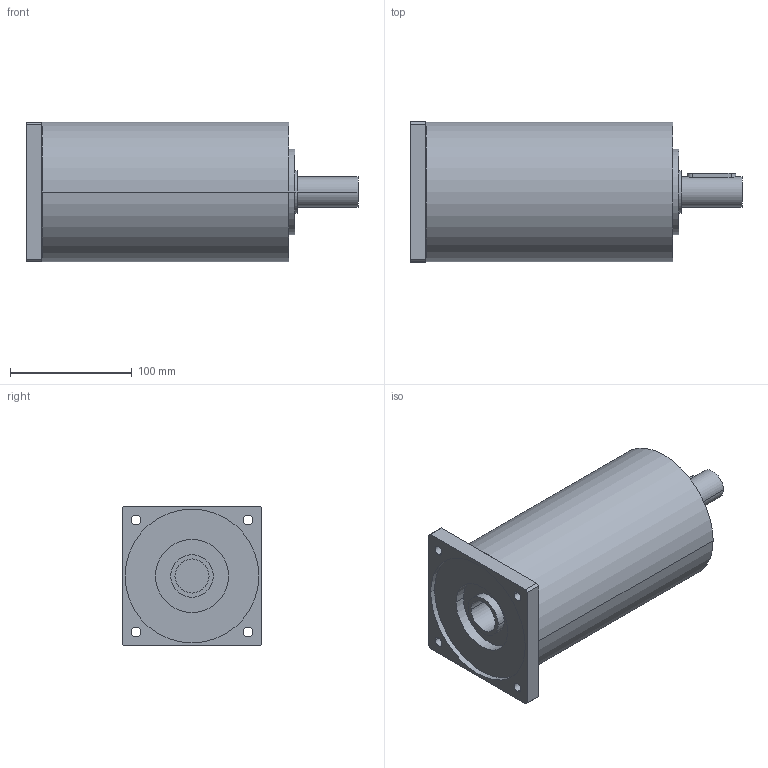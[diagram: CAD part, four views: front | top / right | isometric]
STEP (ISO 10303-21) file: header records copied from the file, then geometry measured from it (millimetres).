
FILE_DESCRIPTION(('CoCreate Modeling STEP Export'),'2;1');
FILE_NAME('GPR125_ig-48-64-80-100-140-196-245-343_25_B14_28_P13.stp','2014-08-26T14:22:53',(''),(''),'CoCreate Modeling STEP processor for AP214 (Solid Model)','CoCreate Modeling 16.00C 25-Feb-2009 (C) Parametric Technology GmbH','');
FILE_SCHEMA(('AUTOMOTIVE_DESIGN { 1 0 10303 214 1 1 1 1 }'));
Length unit declared in the file: millimetre
Products named in the file (2): GPR125_ig-48-64-80-100-140-196-245-343_25_B14_28_P13
Assembly tree (1 placements, depth 2):
  GPR125_ig-48-64-80-100-140-196-245-343_25_B14_28_P13
    GPR125_ig-48-64-80-100-140-196-245-343_25_B14_28_P13
Bounding box: 273 x 115 x 115 mm (x, y, z)
Volume: 2224715.8 mm3; surface area: 123813.6 mm2
Topology: 1 solids, 1 shells, 65 faces, 180 edges, 128 vertices
Faces by surface type: cylinder 40, plane 21, cone 4
Entity records: 1853 total; most frequent: ORIENTED_EDGE 356, CARTESIAN_POINT 351, DIRECTION 248, EDGE_CURVE 178, VERTEX_POINT 128, AXIS2_PLACEMENT_3D 93, EDGE_LOOP 86, FACE_OUTER_BOUND 65
